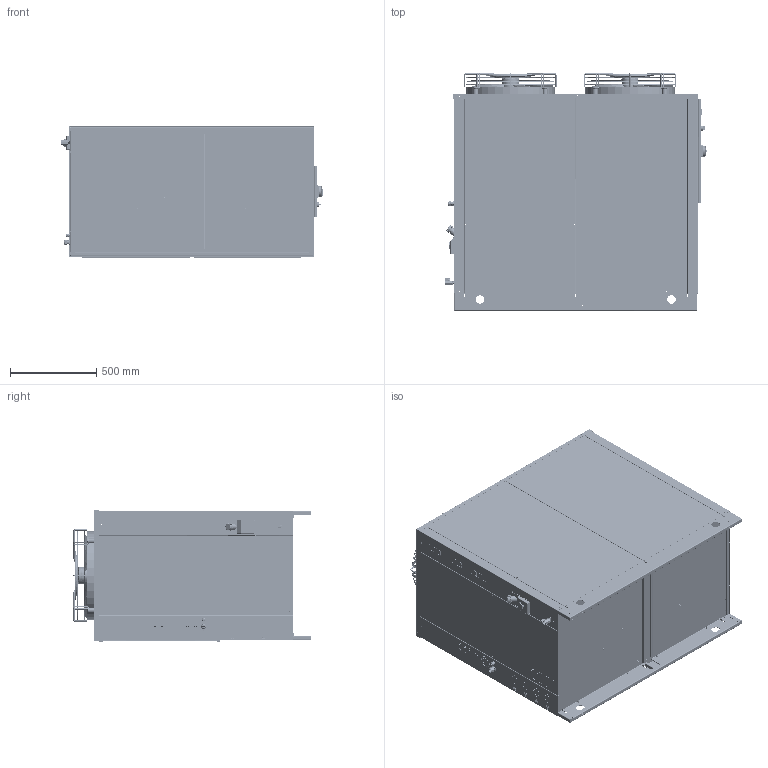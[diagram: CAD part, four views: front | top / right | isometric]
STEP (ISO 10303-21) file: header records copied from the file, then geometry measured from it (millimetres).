
FILE_DESCRIPTION (( 'STEP AP203' ), '1' );
FILE_NAME ('F3-2C REV_00.STEP', '2026-07-20T13:43:27', ( '' ), ( '' ), 'SwSTEP 2.0', 'SolidWorks 2023', '' );
FILE_SCHEMA (( 'CONFIG_CONTROL_DESIGN' ));
Length unit declared in the file: millimetre
Products named in the file (86): COPIA_VR-3F-00003_002; COPIA_H48-0022_DX; COPIA_VE-W5-00007_04; COPIA_QC_BASE_D2_D3-600X300X200; COPIA_350-022; COPIA_TAPPO 1P  FEM ; COPIA_MOUSSE_ADESIVA_20X10_L658; COPIA_WE-W5-00007; COPIA_VR-3F-00006_001B; COPIA_SE-RP-00013; COPIA_CR-3F-00008_001; COPIA_CR-3D-00004_001; COPIA_VASCHETTA F3 COND DX 32_SUP; COPIA_VR-2F-00007_004; COPIA_CR-3F-00006_001; COPIA_CR-2D-00004_001; COPIA_T09-0002_DX; COPIA_VR-2F-00010_000; COPIA_VR-3F-00006_001A; COPIA_6D-400-S-018-2_22_AF0; COPIA_VR-3F-00004_002; COPIA_PG-16; COPIA_MOUSSE_ADESIVA_20X10_L1270; COPIA_D01-CD0240P_DX; COPIA_COMPONENTI_VENTOLA_40-MI-E0010; COPIA_CR-3F-00004_002; COPIA_CR-3F-00006_001A; COPIA_T09-0146_DX; COPIA_H48-0025_DX; COPIA_VE-W5-00007_03; COPIA_CR-3F-00003_000; COPIA_SEZIONATORE-GR_D2; COPIA_SE-RR-00025_000; COPIA_B72-0529_DX; COPIA_VR-2F-00006_003; COPIA_50-3F-00001-2_50-3F-00001; COPIA_PG 9_Cable-Gland-1.209.0900.14-Nelco; COPIA_AN-PI-00022; COPIA_FI-A4-00002_000; COPIA_PG 9_2_Nut-PA-Grey-19-19-22-Nelco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
Assembly tree (176 placements, depth 8):
  F3-2C REV_00
    COPIA_40-MI-E0010
      COPIA_50-3F-00001-2_50-3F-00001
        COPIA_VR-3F-00003_002
          COPIA_VR-3F-00003_002
          COPIA_RIVELOX M5  x32
        COPIA_VR-2F-00005_003
        COPIA_VR-2F-00006_003
        COPIA_VR-2F-00007_004
        COPIA_VR-2F-00008_003
        COPIA_VR-2F-00010_000
        COPIA_VR-2F-00011_000
        COPIA_CR-3F-00008_001  x2
        COPIA_CR-3F-00009_001
        COPIA_CR-3F-00005_002
        COPIA_VR-3F-00004_002
        COPIA_CR-3F-00007_004
        COPIA_VASCHETTA F3 COND DX 32_SUP
          COPIA_CO-MI-00018 X0-CD0242-00_DX_CO-MI-00018_PER_40-MI-E0010
            COPIA_CO-MI-00018 X0-CD0242-00(2)_DX
              COPIA_Y0-CD0242_DX
                COPIA_H48-0022_DX
                COPIA_H48-0025_DX
                COPIA_S82b-1315_DX  x10
                COPIA_B72-0529_DX  x10
                COPIA_D01-CD0240P_DX  x2
                COPIA_T03-0044_DX
                COPIA_T04-0187_DX  x4
                COPIA_T06-0208_DX
                COPIA_T06-0207_DX
              COPIA_T09-0001_DX
              COPIA_T09-0002_DX
              COPIA_T09-0146_DX
            COPIA_G72-0024_DX
            COPIA_G82-0010_DX
          COPIA_PiedeCondensatoreDanfossD38  x4
          COPIA_CR-3F-00003_000
          COPIA_CR-3F-00004_002
        COPIA_VR-3F-00006_001  x2
          COPIA_VR-3F-00006_001A
          COPIA_VR-3F-00006_001B
          COPIA_VR-3F-00006_001C
        COPIA_VR-3F-00002_002  x2
        COPIA_CR-3D-00004_001
        COPIA_CR-3D-00005_000  x2
        COPIA_CR-2D-00004_001  x2
        COPIA_CR-3D-00010_001
        COPIA_CR-2F-00008_000
        COPIA_FI-A4-00002_000  x2
        COPIA_CR-3F-00006_001
          COPIA_CR-3F-00006_001A
          COPIA_CR-3F-00006_001B
        COPIA_MOUSSE_ADESIVA_20X10_L658  x2
        COPIA_MOUSSE_ADESIVA_20X10_L1270  x2
      COPIA_COMPONENTI_VENTOLA_40-MI-E0010
        COPIA_AN-PI-00022  x8
        COPIA_WE-W5-00007  x2
          COPIA_350-012-C
          COPIA_6D-400-S-018-2_22_AF0
          COPIA_PRT0002_11_AF0
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Bounding box: 1516.59 x 1374.2 x 762 mm (x, y, z)
Volume: 28644178.2 mm3; surface area: 30244124.4 mm2
Topology: 368 solids, 461 shells, 22355 faces, 57974 edges, 36455 vertices
Faces by surface type: plane 10680, cylinder 5019, bspline 4548, cone 1408, torus 643, sphere 57
Entity records: 563163 total; most frequent: CARTESIAN_POINT 245601, ORIENTED_EDGE 68680, DIRECTION 54886, EDGE_CURVE 34560, VERTEX_POINT 21820, VECTOR 18628, LINE 18628, AXIS2_PLACEMENT_3D 18129
